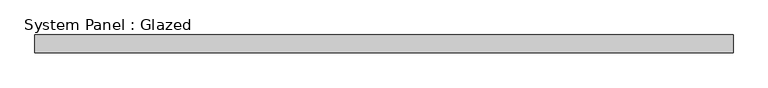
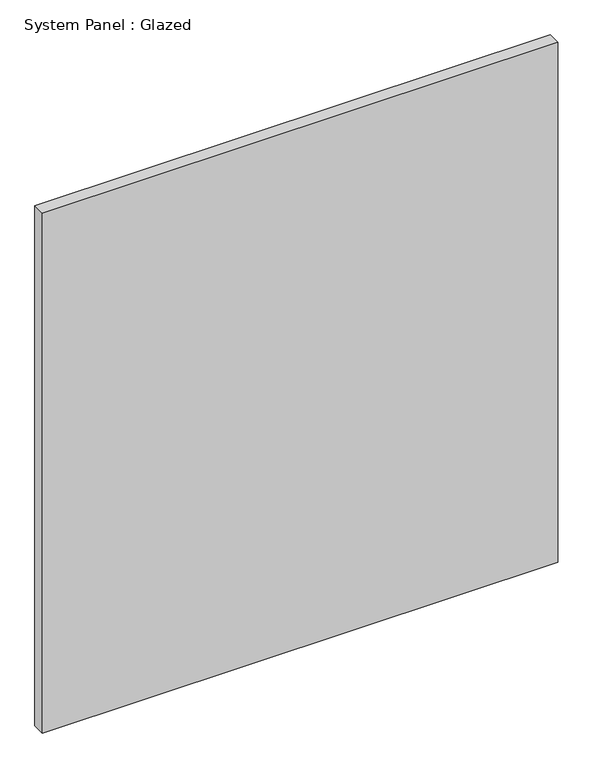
"""IFC4 building model written with IfcOpenShell, lengths in millimetres: plate geometry, System Panel : Glazed."""

import ifcopenshell
import ifcopenshell.guid

model = None  # the IFC model being written
_history = None  # IfcOwnerHistory: only IFC2X3 demands one
_inside = {}  # id of a spatial element -> (the spatial element, [elements in it])
_under = {}  # id of a project, library or spatial element -> (it, [spatial elements below it])
_declared = {}  # id of a project -> (the project, [libraries it declares])
_typed = {}  # id of a type object -> (the type object, [elements of that type])
_made_of = {}  # id of a material, layer set ... -> (it, [elements and type objects made of it])


def new_model(schema):
    """Start an empty IFC model of exactly this schema.

    Asked for "IFC4X3", IfcOpenShell would pick the latest addendum, in which some entities
    have other attributes; the version numbers below select the first issue.
    IFC2X3 requires an IfcOwnerHistory on every rooted entity: one is made here for all.
    """
    global model, _history
    if schema == "IFC4X3":
        model = ifcopenshell.file(schema_version=(4, 3, 0, 0))
    else:
        model = ifcopenshell.file(schema=schema)
    _inside.clear()
    _under.clear()
    _declared.clear()
    _typed.clear()
    _made_of.clear()
    _history = None
    if model.schema == "IFC2X3":
        org = make("IfcOrganization", Name="unknown")
        user = make(
            "IfcPersonAndOrganization",
            ThePerson=make("IfcPerson", FamilyName="unknown"),
            TheOrganization=org,
        )
        app = make(
            "IfcApplication",
            ApplicationDeveloper=org,
            Version="unknown",
            ApplicationFullName="unknown",
            ApplicationIdentifier="unknown",
        )
        _history = make(
            "IfcOwnerHistory",
            OwningUser=user,
            OwningApplication=app,
            ChangeAction="ADDED",
            CreationDate=0,
        )
    return model


def make(cls, **values):
    """One entity of the class cls with the attributes given. An attribute that is None is left unset."""
    return model.create_entity(
        cls, **{name: value for name, value in values.items() if value is not None}
    )


def rooted(cls, **values):
    """An entity with a GlobalId (a new one), such as an element, a storey or a relation."""
    return make(cls, GlobalId=ifcopenshell.guid.new(), OwnerHistory=_history, **values)


def si_unit(unit_type, name, prefix=None):
    """IfcSIUnit, for example si_unit("LENGTHUNIT", "METRE", prefix="MILLI")."""
    return make("IfcSIUnit", UnitType=unit_type, Prefix=prefix, Name=name)


def assignment(units):
    """IfcUnitAssignment: the units of a project."""
    return None if units is None else make("IfcUnitAssignment", Units=units)


def point(xyz):
    """IfcCartesianPoint."""
    return None if xyz is None else make("IfcCartesianPoint", Coordinates=xyz)


def direction(xyz):
    """IfcDirection."""
    return None if xyz is None else make("IfcDirection", DirectionRatios=xyz)


def frame(location, z_axis=None, x_axis=None):
    """IfcAxis2Placement3D, a coordinate frame: its origin and axes. An axis left out is left unset."""
    return make(
        "IfcAxis2Placement3D",
        Location=point(location),
        Axis=direction(z_axis),
        RefDirection=direction(x_axis),
    )


def origin():
    """The frame at (0, 0, 0) with its axes left unset."""
    return frame((0.0, 0.0, 0.0))


def origin_with_axes():
    """The frame at (0, 0, 0) with the z axis (0, 0, 1) and the x axis (1, 0, 0) written out."""
    return frame((0.0, 0.0, 0.0), z_axis=(0.0, 0.0, 1.0), x_axis=(1.0, 0.0, 0.0))


def place(relative_to, where):
    """IfcLocalPlacement: puts the frame where relative to a parent placement (None: the world)."""
    return make(
        "IfcLocalPlacement", PlacementRelTo=relative_to, RelativePlacement=where
    )


def context(
    kind, dimensions, precision=None, world=None, true_north=None, identifier=None
):
    """IfcGeometricRepresentationContext, for example the 3D "Model" context."""
    return make(
        "IfcGeometricRepresentationContext",
        ContextIdentifier=identifier,
        ContextType=kind,
        CoordinateSpaceDimension=dimensions,
        Precision=precision,
        WorldCoordinateSystem=world,
        TrueNorth=true_north,
    )


def project(units=None, contexts=None):
    """IfcProject with its units and contexts."""
    return rooted(
        "IfcProject",
        Name="project",
        RepresentationContexts=contexts,
        UnitsInContext=assignment(units),
    )


def spatial(cls, under=None, at=None, **own):
    """A site, building, storey or space (cls), placed at a placement, below another one or the project."""
    s = rooted(cls, ObjectPlacement=at, **own)
    if under is not None:
        _under.setdefault(under.id(), (under, []))[1].append(s)
    return s


def polyline(points):
    """IfcPolyline through the points."""
    return make("IfcPolyline", Points=[point(p) for p in points])


def outline(outer, holes=None, kind="AREA"):
    """IfcArbitraryClosedProfileDef: a profile drawn as a closed curve; with holes, ...WithVoids."""
    if holes is None:
        return make("IfcArbitraryClosedProfileDef", ProfileType=kind, OuterCurve=outer)
    return make(
        "IfcArbitraryProfileDefWithVoids",
        ProfileType=kind,
        OuterCurve=outer,
        InnerCurves=holes,
    )


def extrude(swept, where, along, depth):
    """IfcExtrudedAreaSolid: the profile swept, set in the frame where, extruded along a direction by depth."""
    return make(
        "IfcExtrudedAreaSolid",
        SweptArea=swept,
        Position=where,
        ExtrudedDirection=direction(along),
        Depth=depth,
    )


def shape(context_of_items, identifier, shape_type, items):
    """IfcShapeRepresentation: the items that make up one representation, for example the "Body"."""
    return make(
        "IfcShapeRepresentation",
        ContextOfItems=context_of_items,
        RepresentationIdentifier=identifier,
        RepresentationType=shape_type,
        Items=items,
    )


def source(mapping_origin, context_of_items, identifier, shape_type, items):
    """IfcRepresentationMap: a shape defined once, which mapped items show again and again."""
    return make(
        "IfcRepresentationMap",
        MappingOrigin=mapping_origin,
        MappedRepresentation=shape(context_of_items, identifier, shape_type, items),
    )


def transform(
    local_origin,
    x_axis=None,
    y_axis=None,
    z_axis=None,
    scale=None,
    scale2=None,
    scale3=None,
    uniform=True,
):
    """IfcCartesianTransformationOperator3D, or its non-uniform kind. x_axis, y_axis, z_axis: its Axis1, 2, 3."""
    if uniform:
        return make(
            "IfcCartesianTransformationOperator3D",
            Axis1=direction(x_axis),
            Axis2=direction(y_axis),
            LocalOrigin=point(local_origin),
            Scale=scale,
            Axis3=direction(z_axis),
        )
    return make(
        "IfcCartesianTransformationOperator3DnonUniform",
        Axis1=direction(x_axis),
        Axis2=direction(y_axis),
        LocalOrigin=point(local_origin),
        Scale=scale,
        Axis3=direction(z_axis),
        Scale2=scale2,
        Scale3=scale3,
    )


def mapped(mapping_source, mapping_target):
    """IfcMappedItem: shows the shape of a source again, moved by a transform."""
    return make(
        "IfcMappedItem", MappingSource=mapping_source, MappingTarget=mapping_target
    )


def made_of(thing, what):
    """Note that an element or type object is made of a material, layer set ...; save() writes the relation."""
    if what is not None:
        _made_of.setdefault(what.id(), (what, []))[1].append(thing)
    return thing


def element(
    cls,
    number,
    at=None,
    inside=None,
    cuts=None,
    type_object=None,
    material=None,
    context=None,
    identifier="Body",
    shape_type=None,
    held_by="IfcProductDefinitionShape",
    body=None,
    shapes=None,
    **own,
):
    """One element of the class cls, such as IfcWall. Its Tag is "e" and its number.

    at: its placement. inside: the storey or other place that contains it. cuts: it is an
    opening in that element (IfcRelVoidsElement). A single representation is given by context,
    identifier, shape_type and body (its items); several are given by shapes. held_by: the class
    of the entity that holds the representations. save() writes the other relations.
    """
    e = rooted(cls, Tag="e%d" % number, ObjectPlacement=at, **own)
    if body is not None:
        shapes = [shape(context, identifier, shape_type, body)]
    if shapes is not None:
        e.Representation = make(held_by, Representations=shapes)
    if inside is not None:
        _inside.setdefault(inside.id(), (inside, []))[1].append(e)
    if cuts is not None:
        rooted(
            "IfcRelVoidsElement", RelatingBuildingElement=cuts, RelatedOpeningElement=e
        )
    if type_object is not None:
        _typed.setdefault(type_object.id(), (type_object, []))[1].append(e)
    return made_of(e, material)


def aggregate(whole, parts):
    """IfcRelAggregates: a whole, such as a stair, and the parts it consists of."""
    return rooted("IfcRelAggregates", RelatingObject=whole, RelatedObjects=parts)


def save(model, path):
    """Write the relations noted so far, then the file.

    IfcRelAggregates (storeys below a building ...), IfcRelContainedInSpatialStructure (elements
    in a storey), IfcRelDefinesByType, IfcRelAssociatesMaterial and IfcRelDeclares: one each for
    every whole, place, type object, material and project.
    """
    for whole, parts in _under.values():
        aggregate(whole, parts)
    for where, things in _inside.values():
        rooted(
            "IfcRelContainedInSpatialStructure",
            RelatedElements=things,
            RelatingStructure=where,
        )
    for kind, things in _typed.values():
        rooted("IfcRelDefinesByType", RelatedObjects=things, RelatingType=kind)
    for what, things in _made_of.values():
        rooted("IfcRelAssociatesMaterial", RelatedObjects=things, RelatingMaterial=what)
    for by, libraries in _declared.values():
        rooted("IfcRelDeclares", RelatingContext=by, RelatedDefinitions=libraries)
    model.write(path)


def system_panel_glazed_ea4a5331(model_context):
    return source(origin(), model_context, "Body", "SweptSolid", [
        extrude(outline(polyline([(499.8120624, 19.05), (-499.8120624, 19.05), (-499.8120624, 44.45), (499.8120624, 44.45), (499.8120624, 19.05)])), origin_with_axes(), (0.0, 0.0, 1.0), 1066.0767085),
    ])


if __name__ == "__main__":
    model = new_model("IFC4")
    model_context = context("Model", 3, world=origin())
    ifc_project = project(units=[si_unit("LENGTHUNIT", "METRE", prefix="MILLI")], contexts=[model_context])
    site = spatial("IfcSite", under=ifc_project)
    building = spatial("IfcBuilding", under=site)
    placement = place(None, origin())
    system_panel_glazed_shape = system_panel_glazed_ea4a5331(model_context)
    element("IfcPlate", 1, ObjectType="System Panel : Glazed", at=placement, inside=building, context=model_context, shape_type="MappedRepresentation", body=[
        mapped(system_panel_glazed_shape, transform((0.0, 0.0, 0.0), x_axis=(1.0, 0.0, 0.0), y_axis=(0.0, 1.0, 0.0), z_axis=(0.0, 0.0, 1.0))),
    ])
    save(model, "model.ifc")
